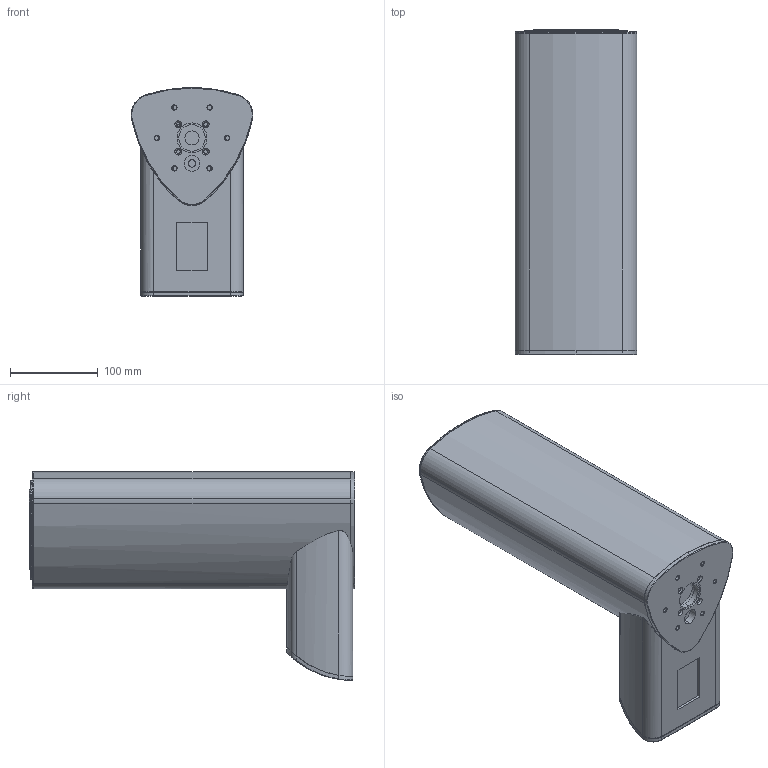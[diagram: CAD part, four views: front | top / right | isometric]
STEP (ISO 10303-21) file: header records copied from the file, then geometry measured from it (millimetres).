
FILE_DESCRIPTION (( 'STEP AP203' ), '1' );
FILE_NAME ('LAC3組合圖(S=300).STEP', '2009-07-07T11:33:55', ( ' ' ), ( '' ), 'SwSTEP 2.0', 'SolidWorks 2008', '' );
FILE_SCHEMA (( 'CONFIG_CONTROL_DESIGN' ));
Length unit declared in the file: millimetre
Products named in the file (19): Q1F003A2(外管)_行程=400; 中管內管鏈條組_下極限; Q1B007A1(外管上蓋襯套)_修改後; 底座組; LAC3組合圖(S=300); 內中外管組合圖_下極限; Q1B008A1(外管底座)_加工; 底座作動組_伸出; 外管組; Q1B006A1(內管上蓋)_加工; 內管組; Q1E003A1(內管)_行程=100; 中管滑輪組; 中管組; Q1B002A1(中管下蓋)_預設; Q1P007A2(中管)_行程=100; Q1B004A1(中管上蓋襯套)_修改後; Q1B009A1(馬達外殼); Q1B011A1(馬達端蓋)
Assembly tree (18 placements, depth 5):
  LAC3組合圖(S=300)
    Q1B009A1(馬達外殼)
    底座組
      底座作動組_伸出
        Q1B008A1(外管底座)_加工
    Q1B011A1(馬達端蓋)
    內中外管組合圖_下極限
      外管組
        Q1B007A1(外管上蓋襯套)_修改後
        Q1F003A2(外管)_行程=400
      中管內管鏈條組_下極限
        內管組
          Q1B006A1(內管上蓋)_加工
          Q1E003A1(內管)_行程=100
        中管滑輪組
          Q1B002A1(中管下蓋)_預設
        中管組
          Q1B004A1(中管上蓋襯套)_修改後
          Q1P007A2(中管)_行程=100
Bounding box: 138.38 x 370 x 237.61 mm (x, y, z)
Volume: 1770951.7 mm3; surface area: 759290.1 mm2
Topology: 10 solids, 10 shells, 949 faces, 2497 edges, 1567 vertices
Faces by surface type: cylinder 523, plane 263, cone 49, bspline 47, sphere 36, torus 31
Entity records: 37845 total; most frequent: CARTESIAN_POINT 12518, ORIENTED_EDGE 4906, DIRECTION 4888, EDGE_CURVE 2453, AXIS2_PLACEMENT_3D 1918, VERTEX_POINT 1567, EDGE_LOOP 1126, LINE 1052
